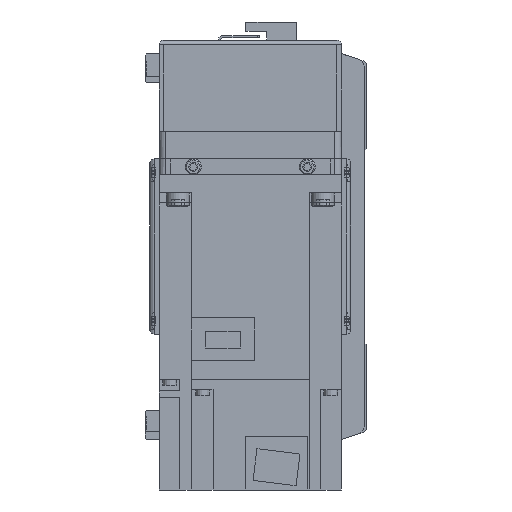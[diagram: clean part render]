
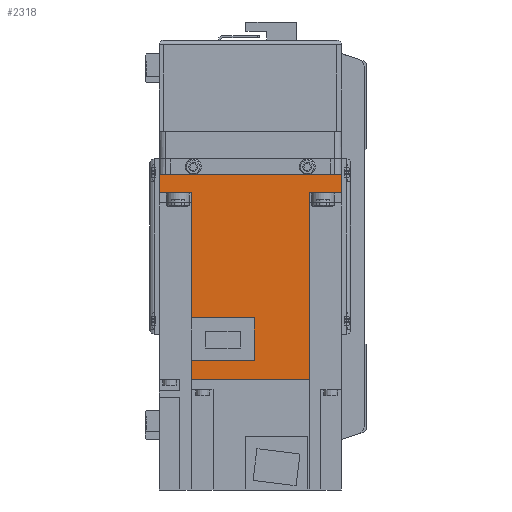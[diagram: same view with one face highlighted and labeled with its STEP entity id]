
A CAD part, left-side view. The second image highlights one B-rep face of the part: STEP entity #2318.
In plain terms, the highlighted planar face has unit normal (-1, 0, 0) as drawn and (1, 0, 0) by its records, which use the part's own axes.
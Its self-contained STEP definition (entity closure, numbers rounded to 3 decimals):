
#2318 = ADVANCED_FACE( '', ( #5323 ), #5324, .F. );
#5323 = FACE_OUTER_BOUND( '', #9189, .T. );
#5324 = PLANE( '', #9190 );
#9189 = EDGE_LOOP( '', ( #15772, #15773, #15774, #15775, #15776, #15777, #15778, #15779, #15780, #15781, #15782, #15783 ) );
#9190 = AXIS2_PLACEMENT_3D( '', #15784, #15785, #15786 );
#15772 = ORIENTED_EDGE( '', *, *, #23868, .F. );
#15773 = ORIENTED_EDGE( '', *, *, #23869, .F. );
#15774 = ORIENTED_EDGE( '', *, *, #22733, .F. );
#15775 = ORIENTED_EDGE( '', *, *, #23624, .T. );
#15776 = ORIENTED_EDGE( '', *, *, #23870, .F. );
#15777 = ORIENTED_EDGE( '', *, *, #23356, .T. );
#15778 = ORIENTED_EDGE( '', *, *, #23871, .T. );
#15779 = ORIENTED_EDGE( '', *, *, #22294, .F. );
#15780 = ORIENTED_EDGE( '', *, *, #23872, .F. );
#15781 = ORIENTED_EDGE( '', *, *, #23873, .F. );
#15782 = ORIENTED_EDGE( '', *, *, #21588, .F. );
#15783 = ORIENTED_EDGE( '', *, *, #23874, .F. );
#15784 = CARTESIAN_POINT( '', ( 40., 89.8, 40. ) );
#15785 = DIRECTION( '', ( -1., 0., 0. ) );
#15786 = DIRECTION( '', ( 0., 0., 1. ) );
#21588 = EDGE_CURVE( '', #25562, #25563, #25564, .T. );
#22294 = EDGE_CURVE( '', #26802, #26804, #26805, .T. );
#22733 = EDGE_CURVE( '', #27533, #27529, #27535, .T. );
#23356 = EDGE_CURVE( '', #28527, #28525, #28528, .T. );
#23624 = EDGE_CURVE( '', #27533, #28934, #28936, .T. );
#23868 = EDGE_CURVE( '', #29290, #29291, #29292, .T. );
#23869 = EDGE_CURVE( '', #27529, #29290, #29293, .T. );
#23870 = EDGE_CURVE( '', #28527, #28934, #29294, .T. );
#23871 = EDGE_CURVE( '', #28525, #26804, #29295, .T. );
#23872 = EDGE_CURVE( '', #29296, #26802, #29297, .T. );
#23873 = EDGE_CURVE( '', #25563, #29296, #29298, .T. );
#23874 = EDGE_CURVE( '', #29291, #25562, #29299, .T. );
#25562 = VERTEX_POINT( '', #31438 );
#25563 = VERTEX_POINT( '', #31439 );
#25564 = LINE( '', #31440, #31441 );
#26802 = VERTEX_POINT( '', #33478 );
#26804 = VERTEX_POINT( '', #33481 );
#26805 = LINE( '', #33482, #33483 );
#27529 = VERTEX_POINT( '', #34828 );
#27533 = VERTEX_POINT( '', #34834 );
#27535 = LINE( '', #34837, #34838 );
#28525 = VERTEX_POINT( '', #36269 );
#28527 = VERTEX_POINT( '', #36272 );
#28528 = LINE( '', #36273, #36274 );
#28934 = VERTEX_POINT( '', #36893 );
#28936 = LINE( '', #36896, #36897 );
#29290 = VERTEX_POINT( '', #37448 );
#29291 = VERTEX_POINT( '', #37449 );
#29292 = LINE( '', #37450, #37451 );
#29293 = LINE( '', #37452, #37453 );
#29294 = LINE( '', #37454, #37455 );
#29295 = LINE( '', #37456, #37457 );
#29296 = VERTEX_POINT( '', #37458 );
#29297 = LINE( '', #37459, #37460 );
#29298 = LINE( '', #37461, #37462 );
#29299 = LINE( '', #37463, #37464 );
#31438 = CARTESIAN_POINT( '', ( 40., 62.8, 1.8 ) );
#31439 = CARTESIAN_POINT( '', ( 40., 62.8, -25.95 ) );
#31440 = CARTESIAN_POINT( '', ( 40., 62.8, 1.8 ) );
#31441 = VECTOR( '', #40605, 1000. );
#33478 = CARTESIAN_POINT( '', ( 40., 8., -40. ) );
#33481 = CARTESIAN_POINT( '', ( 40., 0., -40. ) );
#33482 = CARTESIAN_POINT( '', ( 40., 89.8, -40. ) );
#33483 = VECTOR( '', #41522, 1000. );
#34828 = CARTESIAN_POINT( '', ( 40., 89.8, -25.95 ) );
#34834 = CARTESIAN_POINT( '', ( 40., 89.8, 25.95 ) );
#34837 = CARTESIAN_POINT( '', ( 40., 89.8, 40. ) );
#34838 = VECTOR( '', #42039, 1000. );
#36269 = CARTESIAN_POINT( '', ( 40., 0., 40. ) );
#36272 = CARTESIAN_POINT( '', ( 40., 8., 40. ) );
#36273 = CARTESIAN_POINT( '', ( 40., 89.8, 40. ) );
#36274 = VECTOR( '', #42854, 1000. );
#36893 = CARTESIAN_POINT( '', ( 40., 8., 25.95 ) );
#36896 = CARTESIAN_POINT( '', ( 40., 158., 25.95 ) );
#36897 = VECTOR( '', #43203, 1000. );
#37448 = CARTESIAN_POINT( '', ( 40., 81.4, -25.95 ) );
#37449 = CARTESIAN_POINT( '', ( 40., 81.4, 1.8 ) );
#37450 = CARTESIAN_POINT( '', ( 40., 81.4, -26. ) );
#37451 = VECTOR( '', #43509, 1000. );
#37452 = CARTESIAN_POINT( '', ( 40., 158., -25.95 ) );
#37453 = VECTOR( '', #43510, 1000. );
#37454 = CARTESIAN_POINT( '', ( 40., 8., 40. ) );
#37455 = VECTOR( '', #43511, 1000. );
#37456 = CARTESIAN_POINT( '', ( 40., 0., 40. ) );
#37457 = VECTOR( '', #43512, 1000. );
#37458 = CARTESIAN_POINT( '', ( 40., 8., -25.95 ) );
#37459 = CARTESIAN_POINT( '', ( 40., 8., 40. ) );
#37460 = VECTOR( '', #43513, 1000. );
#37461 = CARTESIAN_POINT( '', ( 40., 158., -25.95 ) );
#37462 = VECTOR( '', #43514, 1000. );
#37463 = CARTESIAN_POINT( '', ( 40., 81.4, 1.8 ) );
#37464 = VECTOR( '', #43515, 1000. );
#40605 = DIRECTION( '', ( 0., 0., -1. ) );
#41522 = DIRECTION( '', ( 0., -1., 0. ) );
#42039 = DIRECTION( '', ( 0., 0., -1. ) );
#42854 = DIRECTION( '', ( 0., -1., 0. ) );
#43203 = DIRECTION( '', ( 0., -1., 0. ) );
#43509 = DIRECTION( '', ( 0., 0., 1. ) );
#43510 = DIRECTION( '', ( 0., -1., 0. ) );
#43511 = DIRECTION( '', ( 0., 0., -1. ) );
#43512 = DIRECTION( '', ( 0., 0., -1. ) );
#43513 = DIRECTION( '', ( 0., 0., -1. ) );
#43514 = DIRECTION( '', ( 0., -1., 0. ) );
#43515 = DIRECTION( '', ( 0., -1., 0. ) );
